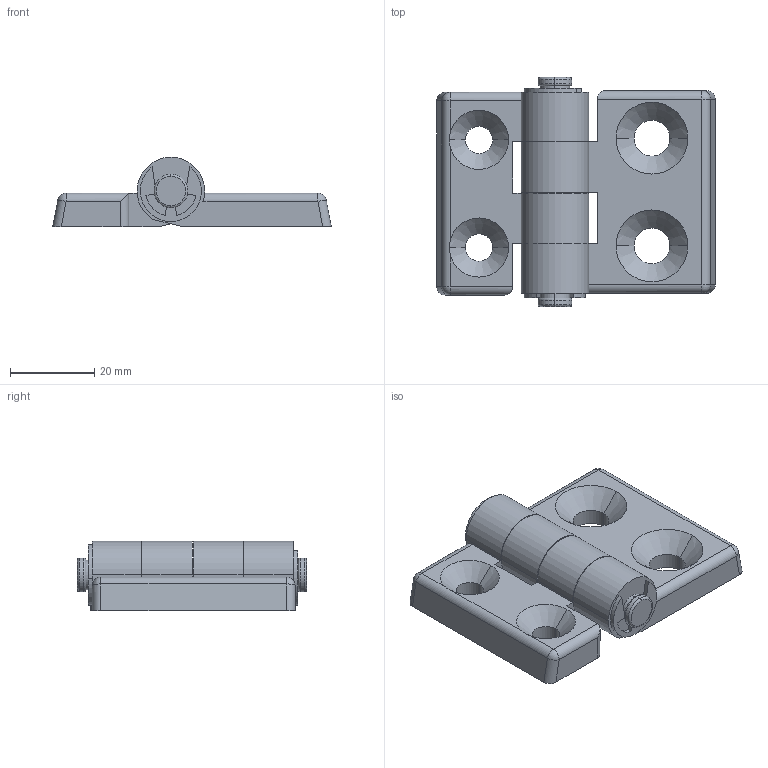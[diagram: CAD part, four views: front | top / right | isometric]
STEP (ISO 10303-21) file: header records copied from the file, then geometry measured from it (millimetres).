
FILE_DESCRIPTION (( 'STEP AP214' ), '1' );
FILE_NAME ('SNSD.30.51.00. Ïåòëÿ ïëàñòèêîâàÿ 3040(B18).STEP', '2014-11-27T10:28:09', ( 'XTreme.ws' ), ( 'XTreme.ws' ), 'SwSTEP 2.0', 'SolidWorks 2014', '' );
FILE_SCHEMA (( 'AUTOMOTIVE_DESIGN' ));
Length unit declared in the file: millimetre
Products named in the file (5): SNSD.30.51.00. Ïåòëÿ ïëàñòèêîâàÿ 3040(B18); SNSD.30.51.00. Ïåòëÿ ïëàñòèêîâàÿ (B18)_00; SNSD.30.51.00. Ïåòëÿ ïëàñòèêîâàÿ ìàëàÿ ÷àñòü(B18)_00; SNSD.30.51.00. ﾏ琿褻 (B18)_00; SNSD.30.51.00. 扻錪犩 (B18)_00
Assembly tree (5 placements, depth 2):
  SNSD.30.51.00. Ïåòëÿ ïëàñòèêîâàÿ 3040(B18)
    SNSD.30.51.00. Ïåòëÿ ïëàñòèêîâàÿ (B18)_00
    SNSD.30.51.00. Ïåòëÿ ïëàñòèêîâàÿ ìàëàÿ ÷àñòü(B18)_00
    SNSD.30.51.00. ﾏ琿褻 (B18)_00
    SNSD.30.51.00. 扻錪犩 (B18)_00  x2
Bounding box: 65.97 x 54.25 x 16.5 mm (x, y, z)
Volume: 24362.5 mm3; surface area: 13202.3 mm2
Topology: 5 solids, 5 shells, 172 faces, 416 edges, 250 vertices
Faces by surface type: cylinder 84, plane 52, sphere 12, cone 8, bspline 8, torus 8
Entity records: 4859 total; most frequent: CARTESIAN_POINT 1002, DIRECTION 815, ORIENTED_EDGE 746, EDGE_CURVE 373, AXIS2_PLACEMENT_3D 313, VERTEX_POINT 224, VECTOR 189, LINE 189
